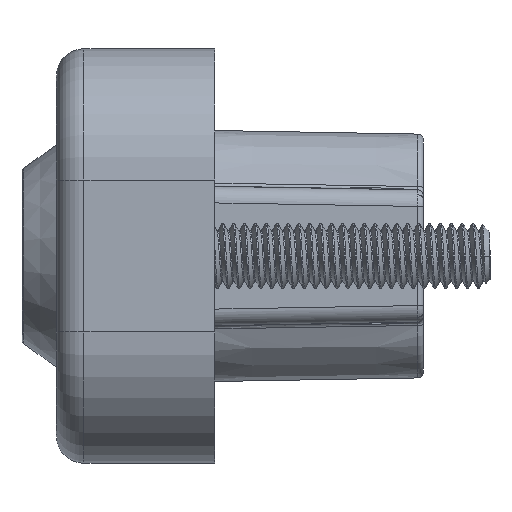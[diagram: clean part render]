
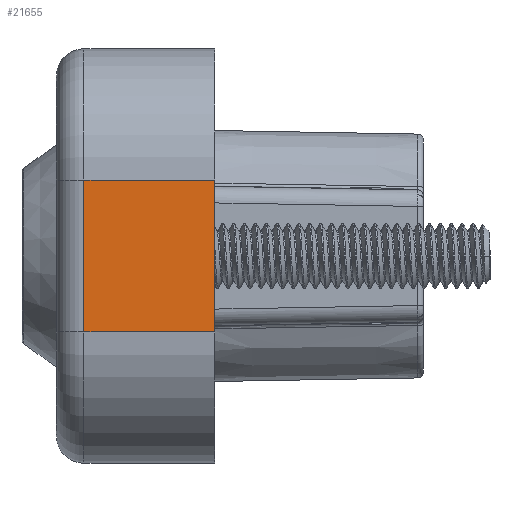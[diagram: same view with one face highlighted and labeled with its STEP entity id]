
A CAD part, left-side view. The second image highlights one B-rep face of the part: STEP entity #21655.
In plain terms, the highlighted planar face has unit normal (-1, 0, 0).
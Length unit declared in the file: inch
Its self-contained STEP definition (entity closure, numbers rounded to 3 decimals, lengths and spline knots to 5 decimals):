
#5372 = EDGE_CURVE ( 'NONE', #29008, #113282, #100634, .T. ) ;
#10233 = FACE_OUTER_BOUND ( 'NONE', #110374, .T. ) ;
#11315 = AXIS2_PLACEMENT_3D ( 'NONE', #141929, #116972, #142786 ) ;
#15396 = VERTEX_POINT ( 'NONE', #164839 ) ;
#15676 = DIRECTION ( 'NONE',  ( 0., -1., 0. ) ) ;
#18712 = CARTESIAN_POINT ( 'NONE',  ( -3., -0.1, -0.75 ) ) ;
#21655 = ADVANCED_FACE ( 'NONE', ( #10233 ), #90344, .T. ) ;
#29008 = VERTEX_POINT ( 'NONE', #92487 ) ;
#31112 = LINE ( 'NONE', #40630, #148312 ) ;
#32954 = CARTESIAN_POINT ( 'NONE',  ( -3., -0.5725, -0.75 ) ) ;
#40630 = CARTESIAN_POINT ( 'NONE',  ( -3., -0.5725, -0.275 ) ) ;
#47882 = VERTEX_POINT ( 'NONE', #137103 ) ;
#60394 = ORIENTED_EDGE ( 'NONE', *, *, #121876, .F. ) ;
#68668 = LINE ( 'NONE', #18712, #98795 ) ;
#74713 = DIRECTION ( 'NONE',  ( 0., 1., 0. ) ) ;
#86414 = DIRECTION ( 'NONE',  ( 0., 0., -1. ) ) ;
#86740 = ORIENTED_EDGE ( 'NONE', *, *, #5372, .T. ) ;
#90344 = PLANE ( 'NONE',  #11315 ) ;
#92487 = CARTESIAN_POINT ( 'NONE',  ( -3., -0.5725, 0.275 ) ) ;
#96474 = VECTOR ( 'NONE', #74713, 39.37008 ) ;
#98795 = VECTOR ( 'NONE', #146231, 39.37008 ) ;
#100634 = LINE ( 'NONE', #113494, #96474 ) ;
#105457 = ORIENTED_EDGE ( 'NONE', *, *, #168016, .T. ) ;
#106458 = ORIENTED_EDGE ( 'NONE', *, *, #108835, .T. ) ;
#108835 = EDGE_CURVE ( 'NONE', #47882, #15396, #31112, .T. ) ;
#110374 = EDGE_LOOP ( 'NONE', ( #86740, #105457, #106458, #60394 ) ) ;
#113282 = VERTEX_POINT ( 'NONE', #118008 ) ;
#113494 = CARTESIAN_POINT ( 'NONE',  ( -3., -0.1875, 0.275 ) ) ;
#116972 = DIRECTION ( 'NONE',  ( -1., 0., 0. ) ) ;
#118008 = CARTESIAN_POINT ( 'NONE',  ( -3., -0.1, 0.275 ) ) ;
#121876 = EDGE_CURVE ( 'NONE', #29008, #15396, #165516, .T. ) ;
#130850 = VECTOR ( 'NONE', #86414, 39.37008 ) ;
#137103 = CARTESIAN_POINT ( 'NONE',  ( -3., -0.1, -0.275 ) ) ;
#141929 = CARTESIAN_POINT ( 'NONE',  ( -3., -0.1875, -0.75 ) ) ;
#142786 = DIRECTION ( 'NONE',  ( 0., 0., 1. ) ) ;
#146231 = DIRECTION ( 'NONE',  ( 0., 0., -1. ) ) ;
#148312 = VECTOR ( 'NONE', #15676, 39.37008 ) ;
#164839 = CARTESIAN_POINT ( 'NONE',  ( -3., -0.5725, -0.275 ) ) ;
#165516 = LINE ( 'NONE', #32954, #130850 ) ;
#168016 = EDGE_CURVE ( 'NONE', #113282, #47882, #68668, .T. ) ;
